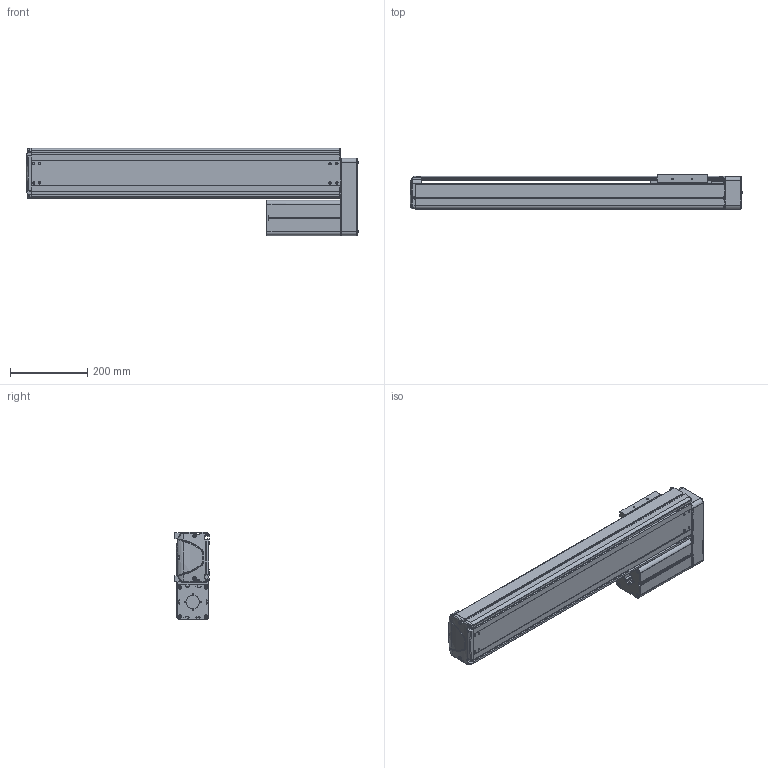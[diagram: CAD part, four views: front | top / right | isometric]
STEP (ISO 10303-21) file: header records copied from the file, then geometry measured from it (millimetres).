
FILE_DESCRIPTION((''),'2;1');
FILE_NAME('BE30E-UL-M_B-60_IGS_PRT','2017-06-17T',(' '),(''),'PRO/ENGINEER BY PARAMETRIC TECHNOLOGY CORPORATION, 2015030','PRO/ENGINEER BY PARAMETRIC TECHNOLOGY CORPORATION, 2015030','');
FILE_SCHEMA(('CONFIG_CONTROL_DESIGN'));
Products named in the file (1): BE30E-UL-M_B-60_IGS_PRT
Bounding box: 861.9 x 89.8 x 227 mm (x, y, z)
Volume: 2976741.5 mm3; surface area: 1332065.4 mm2
Topology: 2 solids, 116 shells, 1993 faces, 5353 edges, 3478 vertices
Faces by surface type: plane 984, cylinder 815, cone 103, torus 39, bspline 28, sphere 24
Entity records: 64360 total; most frequent: CARTESIAN_POINT 13575, DIRECTION 10741, ORIENTED_EDGE 10201, EDGE_CURVE 5315, AXIS2_PLACEMENT_3D 3773, VERTEX_POINT 3478, VECTOR 3195, LINE 3195
